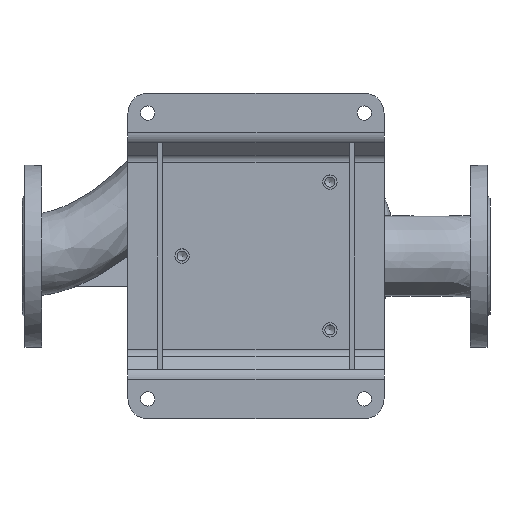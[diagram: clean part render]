
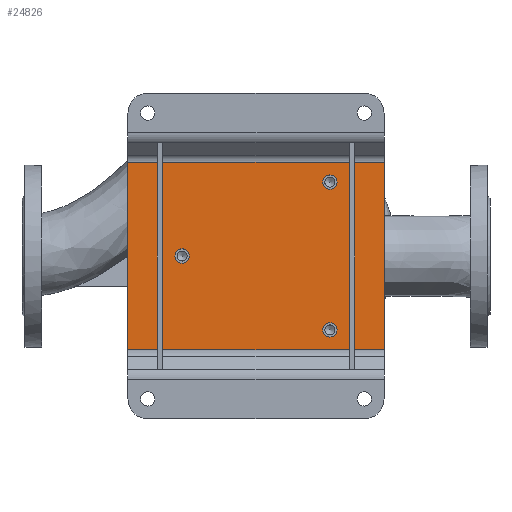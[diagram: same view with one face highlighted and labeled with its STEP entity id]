
A CAD part, top view. The second image highlights one B-rep face of the part: STEP entity #24826.
In plain terms, the highlighted planar face has unit normal (0, 0, 1) as drawn and (0, -1, 0) by its records, which use the part's own axes.
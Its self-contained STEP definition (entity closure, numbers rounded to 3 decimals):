
#61 = CIRCLE ( 'NONE', #10619, 7.25 ) ;
#639 = CARTESIAN_POINT ( 'NONE',  ( -75., -5., 75. ) ) ;
#3619 = DIRECTION ( 'NONE',  ( 0., -1., 0. ) ) ;
#3637 = EDGE_CURVE ( 'NONE', #35697, #35697, #28643, .T. ) ;
#4272 = ORIENTED_EDGE ( 'NONE', *, *, #25112, .F. ) ;
#5392 = CARTESIAN_POINT ( 'NONE',  ( 95., -5., 130. ) ) ;
#5718 = LINE ( 'NONE', #45788, #15171 ) ;
#5987 = DIRECTION ( 'NONE',  ( 0., -1., 0. ) ) ;
#6081 = EDGE_LOOP ( 'NONE', ( #4272 ) ) ;
#6464 = DIRECTION ( 'NONE',  ( 0., 0., -1. ) ) ;
#7098 = VERTEX_POINT ( 'NONE', #25904 ) ;
#7160 = CARTESIAN_POINT ( 'NONE',  ( 0., -5., -75. ) ) ;
#8255 = CARTESIAN_POINT ( 'NONE',  ( 75., -5., 67.75 ) ) ;
#9719 = DIRECTION ( 'NONE',  ( -1., 0., 0. ) ) ;
#9828 = CIRCLE ( 'NONE', #22666, 7.25 ) ;
#10018 = FACE_BOUND ( 'NONE', #32010, .T. ) ;
#10385 = EDGE_LOOP ( 'NONE', ( #46417 ) ) ;
#10619 = AXIS2_PLACEMENT_3D ( 'NONE', #7160, #3619, #32197 ) ;
#11483 = CARTESIAN_POINT ( 'NONE',  ( -95., -5., -130. ) ) ;
#11490 = LINE ( 'NONE', #25912, #42699 ) ;
#11833 = VERTEX_POINT ( 'NONE', #8255 ) ;
#14632 = VERTEX_POINT ( 'NONE', #5392 ) ;
#14653 = CARTESIAN_POINT ( 'NONE',  ( 0., -5., -82.25 ) ) ;
#15171 = VECTOR ( 'NONE', #9719, 1000. ) ;
#16868 = FACE_BOUND ( 'NONE', #10385, .T. ) ;
#17326 = CARTESIAN_POINT ( 'NONE',  ( 0., -5., 0. ) ) ;
#18226 = ORIENTED_EDGE ( 'NONE', *, *, #41359, .F. ) ;
#18484 = CARTESIAN_POINT ( 'NONE',  ( -75., -5., 67.75 ) ) ;
#19049 = CARTESIAN_POINT ( 'NONE',  ( -95., -5., 130. ) ) ;
#21108 = FACE_OUTER_BOUND ( 'NONE', #35323, .T. ) ;
#21410 = ORIENTED_EDGE ( 'NONE', *, *, #25283, .F. ) ;
#21719 = VERTEX_POINT ( 'NONE', #14653 ) ;
#22666 = AXIS2_PLACEMENT_3D ( 'NONE', #23624, #45732, #27417 ) ;
#23269 = CARTESIAN_POINT ( 'NONE',  ( 95., -5., 130. ) ) ;
#23624 = CARTESIAN_POINT ( 'NONE',  ( 75., -5., 75. ) ) ;
#24547 = VERTEX_POINT ( 'NONE', #11483 ) ;
#24826 = ADVANCED_FACE ( 'NONE', ( #16868, #35023, #10018, #21108 ), #38553, .T. ) ;
#25112 = EDGE_CURVE ( 'NONE', #21719, #21719, #61, .T. ) ;
#25283 = EDGE_CURVE ( 'NONE', #7098, #24547, #5718, .T. ) ;
#25904 = CARTESIAN_POINT ( 'NONE',  ( 95., -5., -130. ) ) ;
#25912 = CARTESIAN_POINT ( 'NONE',  ( -95., -5., 130. ) ) ;
#25941 = DIRECTION ( 'NONE',  ( 0., 0., -1. ) ) ;
#26473 = ORIENTED_EDGE ( 'NONE', *, *, #3637, .F. ) ;
#26641 = DIRECTION ( 'NONE',  ( 0., -1., 0. ) ) ;
#26942 = ORIENTED_EDGE ( 'NONE', *, *, #32177, .F. ) ;
#27417 = DIRECTION ( 'NONE',  ( 0., 0., -1. ) ) ;
#27648 = LINE ( 'NONE', #41971, #43283 ) ;
#28643 = CIRCLE ( 'NONE', #42169, 7.25 ) ;
#28684 = DIRECTION ( 'NONE',  ( 0., 0., 1. ) ) ;
#29429 = AXIS2_PLACEMENT_3D ( 'NONE', #17326, #5987, #6464 ) ;
#30804 = DIRECTION ( 'NONE',  ( 0., 0., -1. ) ) ;
#31043 = LINE ( 'NONE', #23269, #31118 ) ;
#31118 = VECTOR ( 'NONE', #30804, 1000. ) ;
#32010 = EDGE_LOOP ( 'NONE', ( #26473 ) ) ;
#32177 = EDGE_CURVE ( 'NONE', #44696, #14632, #11490, .T. ) ;
#32197 = DIRECTION ( 'NONE',  ( 0., 0., -1. ) ) ;
#35023 = FACE_BOUND ( 'NONE', #6081, .T. ) ;
#35095 = ORIENTED_EDGE ( 'NONE', *, *, #45709, .F. ) ;
#35323 = EDGE_LOOP ( 'NONE', ( #35095, #26942, #18226, #21410 ) ) ;
#35697 = VERTEX_POINT ( 'NONE', #18484 ) ;
#38553 = PLANE ( 'NONE',  #29429 ) ;
#40255 = DIRECTION ( 'NONE',  ( 1., 0., 0. ) ) ;
#41359 = EDGE_CURVE ( 'NONE', #24547, #44696, #27648, .T. ) ;
#41971 = CARTESIAN_POINT ( 'NONE',  ( -95., -5., 130. ) ) ;
#42169 = AXIS2_PLACEMENT_3D ( 'NONE', #639, #26641, #25941 ) ;
#42628 = EDGE_CURVE ( 'NONE', #11833, #11833, #9828, .T. ) ;
#42699 = VECTOR ( 'NONE', #40255, 1000. ) ;
#43283 = VECTOR ( 'NONE', #28684, 1000. ) ;
#44696 = VERTEX_POINT ( 'NONE', #19049 ) ;
#45709 = EDGE_CURVE ( 'NONE', #14632, #7098, #31043, .T. ) ;
#45732 = DIRECTION ( 'NONE',  ( 0., -1., 0. ) ) ;
#45788 = CARTESIAN_POINT ( 'NONE',  ( -95., -5., -130. ) ) ;
#46417 = ORIENTED_EDGE ( 'NONE', *, *, #42628, .F. ) ;
